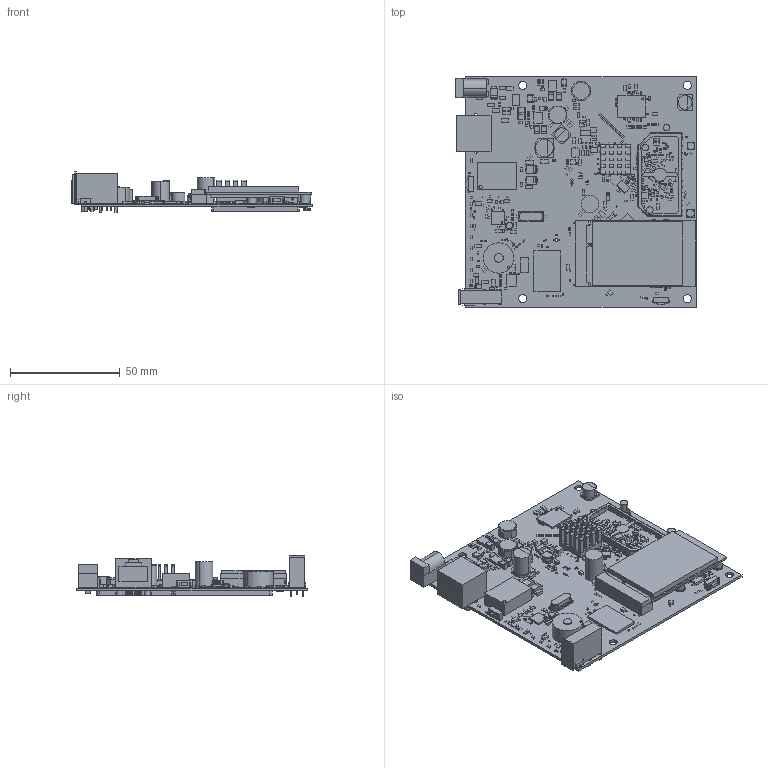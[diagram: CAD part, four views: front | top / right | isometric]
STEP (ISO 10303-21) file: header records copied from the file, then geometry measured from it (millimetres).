
FILE_DESCRIPTION (( 'STEP AP214' ), '1' );
FILE_NAME ('RB912G_2HPnD.STEP', '2022-01-03T11:17:10', ( '' ), ( '' ), 'SwSTEP 2.0', 'SolidWorks 2021', '' );
FILE_SCHEMA (( 'AUTOMOTIVE_DESIGN' ));
Length unit declared in the file: millimetre
Products named in the file (1): RB912G_2HPnD
Bounding box: 109.5 x 105 x 18.4 mm (x, y, z)
Surface area: 67745.3 mm2 (no closed solid volume)
Topology: 0 solids, 767 shells, 3027 faces, 9169 edges, 6889 vertices
Faces by surface type: plane 2666, cylinder 339, bspline 22
Entity records: 101376 total; most frequent: CARTESIAN_POINT 21106, DIRECTION 16031, ORIENTED_EDGE 13339, EDGE_CURVE 9169, LINE 8123, VECTOR 8123, VERTEX_POINT 6889, AXIS2_PLACEMENT_3D 3954
